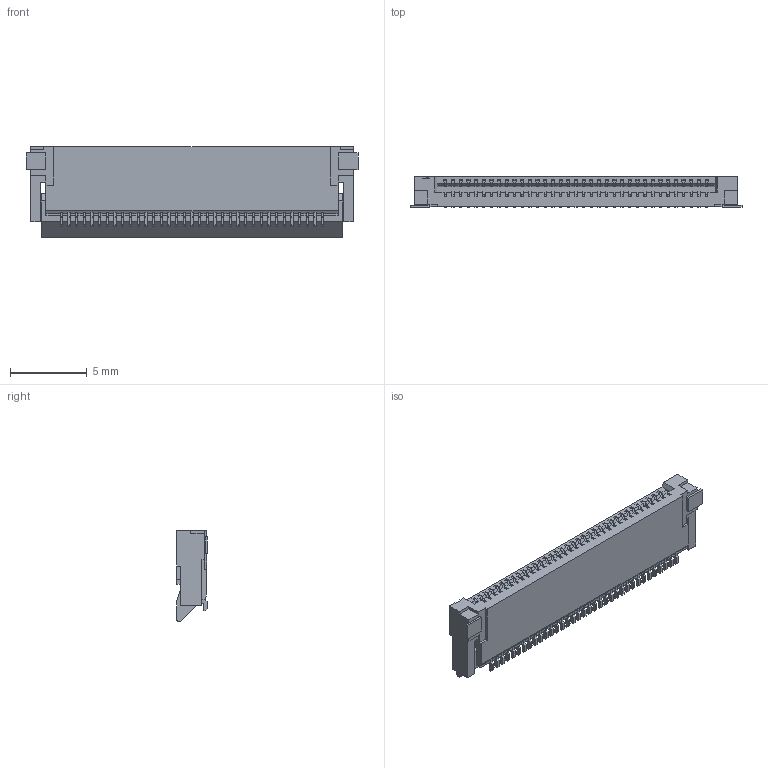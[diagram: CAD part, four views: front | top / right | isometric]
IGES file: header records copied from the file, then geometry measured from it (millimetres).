
Start section: OSMC1.0    IGES FILE using analytic representation for surfaces
Global section: file name: D:\OMRON\XF2M_3515_1A.igs; native system: SolidWorks 2001Plus by SolidWorks Corporation; preprocessor: Version 5.3; author: yamanouchi; date: 110220.041202; units: millimetre
Bounding box: 21.6 x 2 x 5.9 mm (x, y, z)
Surface area: 669.5 mm2 (no closed solid volume)
Topology: 0 solids, 0 shells, 1343 faces, 7826 edges, 7826 vertices
Faces by surface type: bspline 1342, revolution 1
